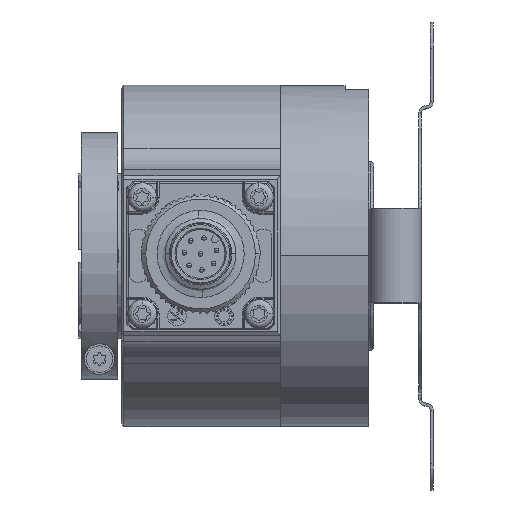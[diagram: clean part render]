
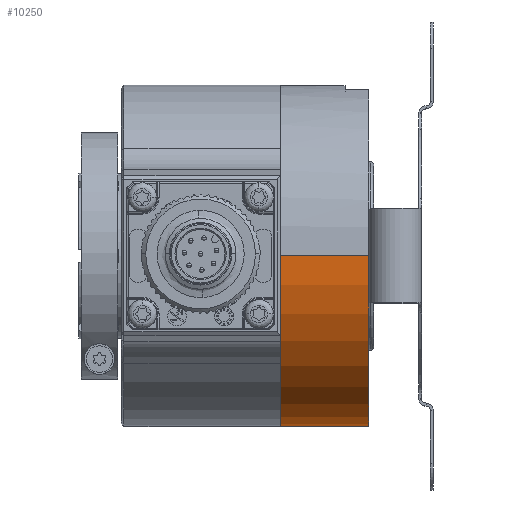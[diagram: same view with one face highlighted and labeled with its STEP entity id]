
A CAD part, top view. The second image highlights one B-rep face of the part: STEP entity #10250.
In plain terms, the highlighted cylindrical face has radius 29 mm (diameter 58 mm), a partial arc.
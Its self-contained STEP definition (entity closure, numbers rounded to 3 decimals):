
#473 = ORIENTED_EDGE ( 'NONE', *, *, #25457, .F. ) ;
#1406 = DIRECTION ( 'NONE',  ( -1., 0., 0. ) ) ;
#1711 = CARTESIAN_POINT ( 'NONE',  ( 15., 0., 29. ) ) ;
#3492 = CARTESIAN_POINT ( 'NONE',  ( 15., 0., 0. ) ) ;
#3574 = CARTESIAN_POINT ( 'NONE',  ( 0., 0., 0. ) ) ;
#7528 = DIRECTION ( 'NONE',  ( -1., 0., 0. ) ) ;
#7655 = VERTEX_POINT ( 'NONE', #22642 ) ;
#9408 = VERTEX_POINT ( 'NONE', #39531 ) ;
#10250 = ADVANCED_FACE ( 'NONE', ( #22738 ), #50688, .T. ) ;
#15158 = EDGE_CURVE ( 'NONE', #7655, #44696, #19343, .T. ) ;
#17307 = ORIENTED_EDGE ( 'NONE', *, *, #36699, .F. ) ;
#17975 = CIRCLE ( 'NONE', #47456, 29. ) ;
#19343 = CIRCLE ( 'NONE', #24434, 29. ) ;
#21673 = ORIENTED_EDGE ( 'NONE', *, *, #15158, .T. ) ;
#21723 = LINE ( 'NONE', #37802, #48240 ) ;
#22642 = CARTESIAN_POINT ( 'NONE',  ( 15., 0., -29. ) ) ;
#22738 = FACE_OUTER_BOUND ( 'NONE', #52158, .T. ) ;
#23365 = DIRECTION ( 'NONE',  ( 0., 0., 1. ) ) ;
#23808 = DIRECTION ( 'NONE',  ( -1., 0., 0. ) ) ;
#23985 = CARTESIAN_POINT ( 'NONE',  ( -21.996, 0., 0. ) ) ;
#24074 = DIRECTION ( 'NONE',  ( -1., 0., 0. ) ) ;
#24094 = AXIS2_PLACEMENT_3D ( 'NONE', #23985, #31146, #40062 ) ;
#24434 = AXIS2_PLACEMENT_3D ( 'NONE', #3492, #23808, #47794 ) ;
#24569 = CARTESIAN_POINT ( 'NONE',  ( 0., 0., -29. ) ) ;
#25457 = EDGE_CURVE ( 'NONE', #7655, #51605, #29059, .T. ) ;
#29059 = LINE ( 'NONE', #44104, #50787 ) ;
#31146 = DIRECTION ( 'NONE',  ( -1., 0., 0. ) ) ;
#36699 = EDGE_CURVE ( 'NONE', #51605, #9408, #17975, .T. ) ;
#37802 = CARTESIAN_POINT ( 'NONE',  ( -21.996, 0., 29. ) ) ;
#39531 = CARTESIAN_POINT ( 'NONE',  ( 0., 0., 29. ) ) ;
#40062 = DIRECTION ( 'NONE',  ( 0., 0., 1. ) ) ;
#41617 = ORIENTED_EDGE ( 'NONE', *, *, #51405, .T. ) ;
#44104 = CARTESIAN_POINT ( 'NONE',  ( -21.996, 0., -29. ) ) ;
#44696 = VERTEX_POINT ( 'NONE', #1711 ) ;
#47456 = AXIS2_PLACEMENT_3D ( 'NONE', #3574, #7528, #23365 ) ;
#47794 = DIRECTION ( 'NONE',  ( 0., 0., 1. ) ) ;
#48240 = VECTOR ( 'NONE', #1406, 1000. ) ;
#50688 = CYLINDRICAL_SURFACE ( 'NONE', #24094, 29. ) ;
#50787 = VECTOR ( 'NONE', #24074, 1000. ) ;
#51405 = EDGE_CURVE ( 'NONE', #44696, #9408, #21723, .T. ) ;
#51605 = VERTEX_POINT ( 'NONE', #24569 ) ;
#52158 = EDGE_LOOP ( 'NONE', ( #473, #21673, #41617, #17307 ) ) ;
